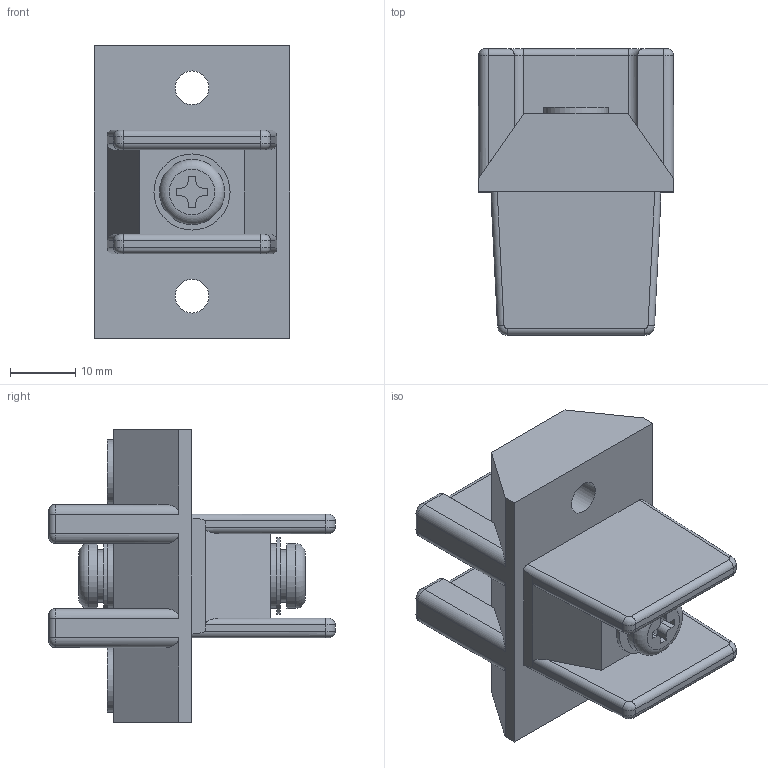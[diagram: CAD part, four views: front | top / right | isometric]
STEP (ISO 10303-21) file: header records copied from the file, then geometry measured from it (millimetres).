
FILE_DESCRIPTION(/* description */ ('Alibre Inc.'),/* implementation_level */ '2;1');
FILE_NAME(/* name */ 'export-F7163838-5229-4CDB-83A8-B9FDA9E76202',/* time_stamp */ '2025-02-21T13:40:31+09:00',/* author */ (''),/* organization */ (''),/* preprocessor_version */ 'ST-DEVELOPER v17',/* originating_system */ 'Alibre',/* authorisation */ '');
FILE_SCHEMA (('CONFIG_CONTROL_DESIGN'));
Length unit declared in the file: millimetre
Bounding box: 30 x 44 x 45 mm (x, y, z)
Volume: 23158.6 mm3; surface area: 9055.6 mm2
Topology: 1 solids, 4 shells, 190 faces, 443 edges, 274 vertices
Faces by surface type: plane 85, cylinder 75, torus 26, cone 4
Full cylindrical faces by diameter (mm): 4.4 x2, 4.6 x2, 5 x3, 5.2 x2, 8 x2, 9.9 x4, 10 x2, 11.7 x2
Entity records: 5226 total; most frequent: CARTESIAN_POINT 960, DIRECTION 829, ORIENTED_EDGE 828, EDGE_CURVE 414, AXIS2_PLACEMENT_3D 354, VERTEX_POINT 270, EDGE_LOOP 236, FACE_BOUND 236
